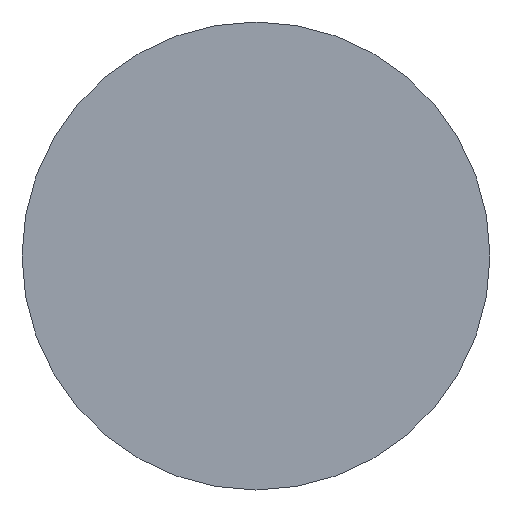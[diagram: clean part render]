
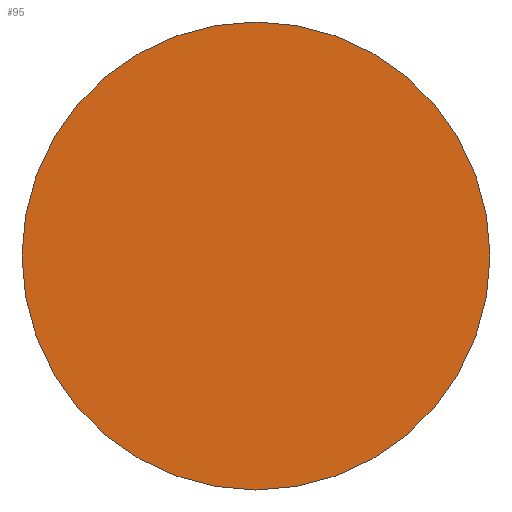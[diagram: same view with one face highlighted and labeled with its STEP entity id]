
A CAD part, left-side view. The second image highlights one B-rep face of the part: STEP entity #95.
In plain terms, the highlighted planar face has unit normal (-1, 0, 0).
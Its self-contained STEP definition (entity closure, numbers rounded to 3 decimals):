
#8 = AXIS2_PLACEMENT_3D ( 'NONE', #91, #90, #89 ) ;
#9 = EDGE_CURVE ( 'NONE', #82, #76, #117, .T. ) ;
#13 = AXIS2_PLACEMENT_3D ( 'NONE', #88, #79, #77 ) ;
#14 = EDGE_CURVE ( 'NONE', #76, #82, #122, .T. ) ;
#22 = AXIS2_PLACEMENT_3D ( 'NONE', #59, #56, #55 ) ;
#55 = DIRECTION ( 'NONE',  ( 0., 0., 1. ) ) ;
#56 = DIRECTION ( 'NONE',  ( -1., 0., 0. ) ) ;
#58 = PLANE ( 'NONE',  #22 ) ;
#59 = CARTESIAN_POINT ( 'NONE',  ( -129.5, 0., 0. ) ) ;
#66 = CARTESIAN_POINT ( 'NONE',  ( -129.5, 0., -5.5 ) ) ;
#69 = CARTESIAN_POINT ( 'NONE',  ( -129.5, 0., 5.5 ) ) ;
#76 = VERTEX_POINT ( 'NONE', #69 ) ;
#77 = DIRECTION ( 'NONE',  ( 0., 0., 1. ) ) ;
#79 = DIRECTION ( 'NONE',  ( -1., 0., 0. ) ) ;
#82 = VERTEX_POINT ( 'NONE', #66 ) ;
#88 = CARTESIAN_POINT ( 'NONE',  ( -129.5, 0., 0. ) ) ;
#89 = DIRECTION ( 'NONE',  ( 0., 0., 1. ) ) ;
#90 = DIRECTION ( 'NONE',  ( -1., 0., 0. ) ) ;
#91 = CARTESIAN_POINT ( 'NONE',  ( -129.5, 0., 0. ) ) ;
#95 = ADVANCED_FACE ( 'NONE', ( #120 ), #58, .T. ) ;
#104 = ORIENTED_EDGE ( 'NONE', *, *, #14, .T. ) ;
#117 = CIRCLE ( 'NONE', #8, 5.5 ) ;
#120 = FACE_OUTER_BOUND ( 'NONE', #132, .T. ) ;
#122 = CIRCLE ( 'NONE', #13, 5.5 ) ;
#132 = EDGE_LOOP ( 'NONE', ( #104, #138 ) ) ;
#138 = ORIENTED_EDGE ( 'NONE', *, *, #9, .T. ) ;
